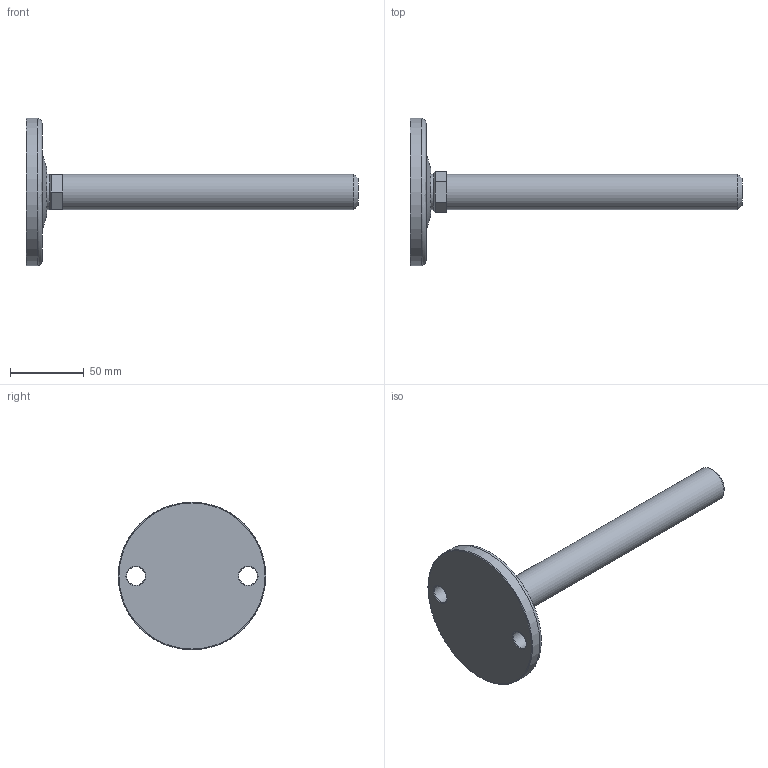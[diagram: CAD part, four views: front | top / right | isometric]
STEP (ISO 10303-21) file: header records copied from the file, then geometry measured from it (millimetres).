
FILE_DESCRIPTION(('STEP AP203'),'2;1');
FILE_NAME('15517.stp','2015-04-24T16:45:40',(''),(''),'2008.1.107','THINKDESIGN','');
FILE_SCHEMA(('CONFIG_CONTROL_DESIGN'));
Length unit declared in the file: millimetre
Bounding box: 225 x 100 x 100 mm (x, y, z)
Volume: 182168 mm3; surface area: 39408.1 mm2
Topology: 5 solids, 5 shells, 46 faces, 111 edges, 78 vertices
Faces by surface type: bspline 20, plane 19, cylinder 7
Full cylindrical faces by diameter (mm): 12.5 x2, 14 x1, 14.7 x1, 24 x2, 100 x1
Entity records: 2904 total; most frequent: CARTESIAN_POINT 1714, DIRECTION 230, ORIENTED_EDGE 222, EDGE_CURVE 111, AXIS2_PLACEMENT_3D 93, VERTEX_POINT 78, CIRCLE 67, EDGE_LOOP 53
